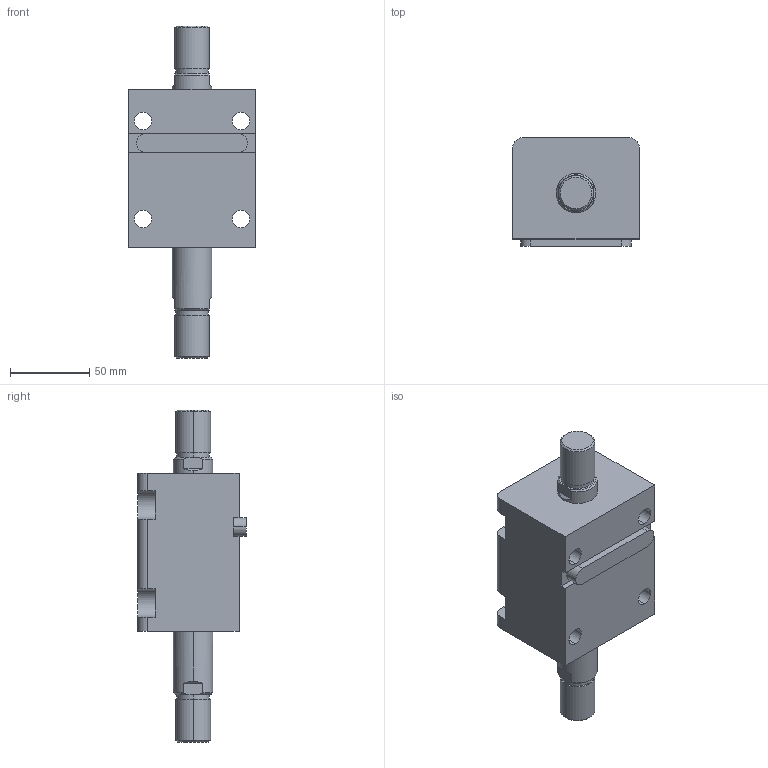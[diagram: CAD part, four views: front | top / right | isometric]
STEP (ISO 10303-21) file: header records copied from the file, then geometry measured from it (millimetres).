
FILE_DESCRIPTION (( 'STEP AP203' ), '1' );
FILE_NAME ('HTB-LW40-30W.STEP', '2019-10-09T07:54:51', ( '微软用户' ), ( '微软中国' ), 'SwSTEP 2.0', 'SolidWorks 2012', '' );
FILE_SCHEMA (( 'CONFIG_CONTROL_DESIGN' ));
Length unit declared in the file: millimetre
Products named in the file (4): HTB-LW40-30W; HTB-LA40-瑩; HTB-LW40-30W活塞杆; HTB-LW40-30掛极
Assembly tree (3 placements, depth 2):
  HTB-LW40-30W
    HTB-LW40-30掛极
    HTB-LW40-30W活塞杆
    HTB-LA40-瑩
Bounding box: 80 x 68.5 x 210 mm (x, y, z)
Volume: 502622.7 mm3; surface area: 80218.3 mm2
Topology: 3 solids, 3 shells, 113 faces, 273 edges, 178 vertices
Faces by surface type: plane 48, cylinder 45, cone 12, torus 8
Entity records: 3779 total; most frequent: CARTESIAN_POINT 622, DIRECTION 617, ORIENTED_EDGE 546, EDGE_CURVE 273, AXIS2_PLACEMENT_3D 241, VERTEX_POINT 178, VECTOR 135, LINE 135
